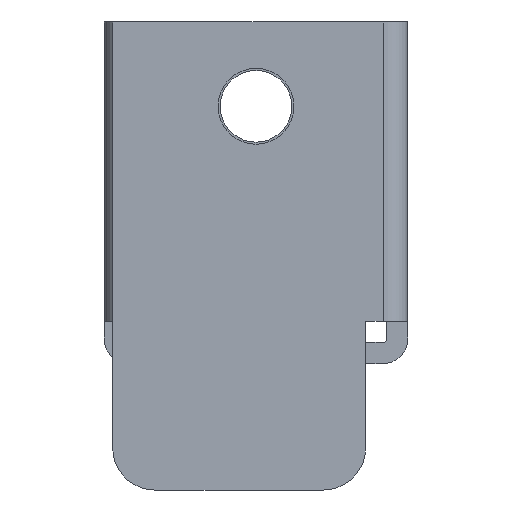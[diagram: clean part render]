
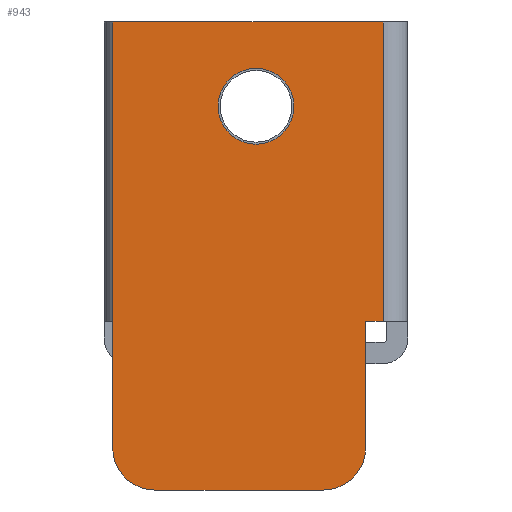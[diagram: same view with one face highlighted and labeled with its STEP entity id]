
A CAD part, left-side view. The second image highlights one B-rep face of the part: STEP entity #943.
In plain terms, the highlighted planar face has unit normal (-1, 0, 0).
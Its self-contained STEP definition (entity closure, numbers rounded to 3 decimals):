
#17=FACE_BOUND('',#134,.T.);
#31=PLANE('',#1011);
#75=FACE_OUTER_BOUND('',#133,.T.);
#133=EDGE_LOOP('',(#694,#695,#696,#697,#698,#699,#700,#701));
#134=EDGE_LOOP('',(#702));
#187=LINE('',#1374,#291);
#191=LINE('',#1386,#295);
#192=LINE('',#1395,#296);
#197=LINE('',#1408,#301);
#204=LINE('',#1424,#308);
#205=LINE('',#1426,#309);
#291=VECTOR('',#1091,40.);
#295=VECTOR('',#1103,30.);
#296=VECTOR('',#1112,71.);
#301=VECTOR('',#1123,64.2);
#308=VECTOR('',#1142,4.2);
#309=VECTOR('',#1145,101.);
#392=CIRCLE('',#991,10.);
#394=CIRCLE('',#995,10.);
#395=CIRCLE('',#998,9.);
#425=VERTEX_POINT('',#1364);
#426=VERTEX_POINT('',#1366);
#428=VERTEX_POINT('',#1372);
#430=VERTEX_POINT('',#1378);
#432=VERTEX_POINT('',#1384);
#433=VERTEX_POINT('',#1388);
#435=VERTEX_POINT('',#1393);
#436=VERTEX_POINT('',#1394);
#441=VERTEX_POINT('',#1406);
#509=EDGE_CURVE('',#426,#425,#392,.T.);
#513=EDGE_CURVE('',#425,#428,#187,.T.);
#516=EDGE_CURVE('',#428,#430,#394,.T.);
#519=EDGE_CURVE('',#430,#432,#191,.T.);
#520=EDGE_CURVE('',#433,#433,#395,.T.);
#522=EDGE_CURVE('',#435,#436,#192,.T.);
#529=EDGE_CURVE('',#441,#436,#197,.T.);
#538=EDGE_CURVE('',#435,#432,#204,.T.);
#539=EDGE_CURVE('',#441,#426,#205,.T.);
#694=ORIENTED_EDGE('',*,*,#522,.T.);
#695=ORIENTED_EDGE('',*,*,#529,.F.);
#696=ORIENTED_EDGE('',*,*,#539,.T.);
#697=ORIENTED_EDGE('',*,*,#509,.T.);
#698=ORIENTED_EDGE('',*,*,#513,.T.);
#699=ORIENTED_EDGE('',*,*,#516,.T.);
#700=ORIENTED_EDGE('',*,*,#519,.T.);
#701=ORIENTED_EDGE('',*,*,#538,.F.);
#702=ORIENTED_EDGE('',*,*,#520,.T.);
#943=ADVANCED_FACE('',(#75,#17),#31,.F.);
#991=AXIS2_PLACEMENT_3D('',#1367,#1084,#1085);
#995=AXIS2_PLACEMENT_3D('',#1380,#1097,#1098);
#998=AXIS2_PLACEMENT_3D('',#1389,#1106,#1107);
#1011=AXIS2_PLACEMENT_3D('',#1427,#1146,#1147);
#1084=DIRECTION('center_axis',(-1.,0.,0.));
#1085=DIRECTION('ref_axis',(0.,0.,1.));
#1091=DIRECTION('',(0.,-1.,0.));
#1097=DIRECTION('center_axis',(-1.,0.,0.));
#1098=DIRECTION('ref_axis',(0.,1.,0.));
#1103=DIRECTION('',(0.,0.,1.));
#1106=DIRECTION('center_axis',(1.,0.,0.));
#1107=DIRECTION('ref_axis',(0.,1.,0.));
#1112=DIRECTION('',(0.,0.,1.));
#1123=DIRECTION('',(0.,-1.,0.));
#1142=DIRECTION('',(0.,1.,0.));
#1145=DIRECTION('',(0.,0.,-1.));
#1146=DIRECTION('center_axis',(1.,0.,0.));
#1147=DIRECTION('ref_axis',(0.,0.,
1.));
#1364=CARTESIAN_POINT('',(0.,24.,-35.));
#1366=CARTESIAN_POINT('',(0.,34.,-25.));
#1367=CARTESIAN_POINT('Origin',(0.,24.,-25.));
#1372=CARTESIAN_POINT('',(0.,-16.,-35.));
#1374=CARTESIAN_POINT('',(0.,24.,-35.));
#1378=CARTESIAN_POINT('',(0.,-26.,-25.));
#1380=CARTESIAN_POINT('Origin',(0.,-16.,-25.));
#1384=CARTESIAN_POINT('',(0.,-26.,5.));
#1386=CARTESIAN_POINT('',(0.,-26.,-25.));
#1388=CARTESIAN_POINT('',(0.,9.,56.));
#1389=CARTESIAN_POINT('Origin',(0.,0.,56.));
#1393=CARTESIAN_POINT('',(0.,-30.2,5.));
#1394=CARTESIAN_POINT('',(0.,-30.2,76.));
#1395=CARTESIAN_POINT('',(0.,-30.2,40.5));
#1406=CARTESIAN_POINT('',(0.,34.,76.));
#1408=CARTESIAN_POINT('',(0.,-35.4,76.));
#1424=CARTESIAN_POINT('',(0.,-30.2,5.));
#1426=CARTESIAN_POINT('',(0.,34.,5.));
#1427=CARTESIAN_POINT('Origin',(0.,0.6,
40.5));
